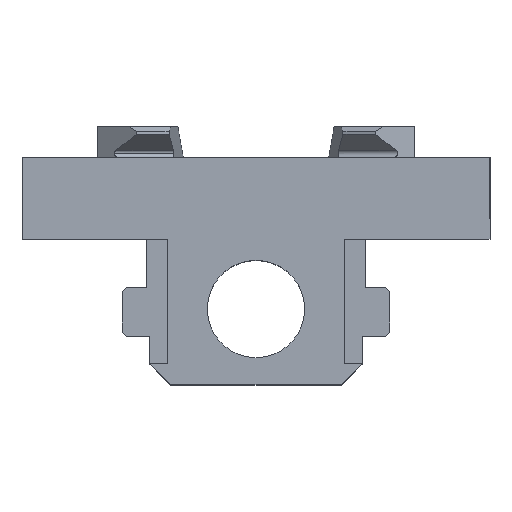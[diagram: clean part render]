
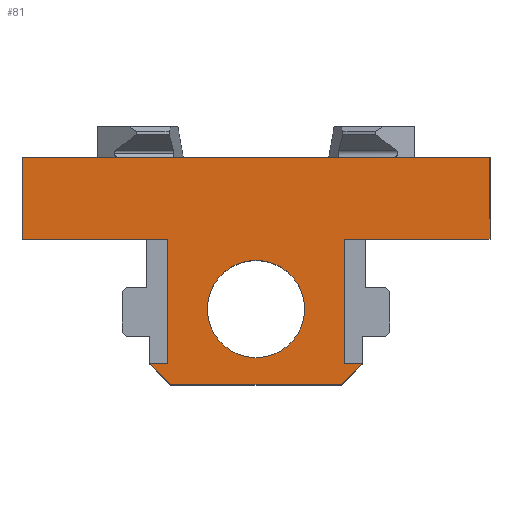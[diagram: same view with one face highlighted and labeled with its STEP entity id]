
A CAD part, top view. The second image highlights one B-rep face of the part: STEP entity #81.
In plain terms, the highlighted planar face has unit normal (0, 0, 1).
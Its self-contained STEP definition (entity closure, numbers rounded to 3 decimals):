
#21 = DIRECTION ( 'NONE',  ( 0.707, -0.707, 0. ) ) ;
#36 = VECTOR ( 'NONE', #11108, 1000. ) ;
#81 = ADVANCED_FACE ( 'NONE', ( #3374, #8034 ), #1115, .F. ) ;
#182 = ORIENTED_EDGE ( 'NONE', *, *, #5390, .F. ) ;
#227 = VECTOR ( 'NONE', #633, 1000. ) ;
#567 = VERTEX_POINT ( 'NONE', #6181 ) ;
#605 = LINE ( 'NONE', #5237, #2362 ) ;
#633 = DIRECTION ( 'NONE',  ( 1., 0., 0. ) ) ;
#773 = VECTOR ( 'NONE', #4546, 1000. ) ;
#853 = CARTESIAN_POINT ( 'NONE',  ( -14.5, 54.083, 9.5 ) ) ;
#892 = EDGE_CURVE ( 'NONE', #14352, #14885, #2034, .T. ) ;
#919 = VECTOR ( 'NONE', #21, 1000. ) ;
#949 = CARTESIAN_POINT ( 'NONE',  ( 0., 12.5, 9.5 ) ) ;
#1115 = PLANE ( 'NONE',  #6358 ) ;
#1139 = LINE ( 'NONE', #9286, #14780 ) ;
#1232 = AXIS2_PLACEMENT_3D ( 'NONE', #949, #14905, #14138 ) ;
#1271 = LINE ( 'NONE', #8110, #6254 ) ;
#1556 = EDGE_CURVE ( 'NONE', #8244, #9348, #8849, .T. ) ;
#2022 = DIRECTION ( 'NONE',  ( 1., 0., 0. ) ) ;
#2034 = LINE ( 'NONE', #7957, #9537 ) ;
#2116 = VECTOR ( 'NONE', #9227, 1000. ) ;
#2218 = LINE ( 'NONE', #14951, #2116 ) ;
#2223 = DIRECTION ( 'NONE',  ( 0., 1., 0. ) ) ;
#2281 = LINE ( 'NONE', #11414, #8042 ) ;
#2362 = VECTOR ( 'NONE', #2721, 1000. ) ;
#2721 = DIRECTION ( 'NONE',  ( 1., 0., 0. ) ) ;
#2745 = DIRECTION ( 'NONE',  ( 0., 0., 1. ) ) ;
#2773 = CARTESIAN_POINT ( 'NONE',  ( -38.5, 24., 9.5 ) ) ;
#3015 = CARTESIAN_POINT ( 'NONE',  ( 14.5, 24., 9.5 ) ) ;
#3047 = VERTEX_POINT ( 'NONE', #4840 ) ;
#3211 = DIRECTION ( 'NONE',  ( 1., 0., 0. ) ) ;
#3258 = EDGE_LOOP ( 'NONE', ( #5241, #10781, #11343, #5529, #5873, #12063, #5091, #7245, #12111, #182, #5279, #7904, #8491, #14403 ) ) ;
#3260 = LINE ( 'NONE', #7912, #773 ) ;
#3374 = FACE_OUTER_BOUND ( 'NONE', #3258, .T. ) ;
#3738 = CARTESIAN_POINT ( 'NONE',  ( 17.5, 3.5, 9.5 ) ) ;
#3789 = VERTEX_POINT ( 'NONE', #11794 ) ;
#3796 = EDGE_CURVE ( 'NONE', #3820, #12894, #5349, .T. ) ;
#3820 = VERTEX_POINT ( 'NONE', #10584 ) ;
#4325 = EDGE_CURVE ( 'NONE', #3789, #8244, #8111, .T. ) ;
#4341 = DIRECTION ( 'NONE',  ( 1., 0., 0. ) ) ;
#4526 = DIRECTION ( 'NONE',  ( 1., 0., 0. ) ) ;
#4546 = DIRECTION ( 'NONE',  ( 0., 1., 0. ) ) ;
#4645 = LINE ( 'NONE', #6589, #919 ) ;
#4647 = LINE ( 'NONE', #11780, #14057 ) ;
#4713 = EDGE_CURVE ( 'NONE', #8219, #14885, #1139, .T. ) ;
#4727 = DIRECTION ( 'NONE',  ( -1., 0., 0. ) ) ;
#4746 = DIRECTION ( 'NONE',  ( 1., 0., 0. ) ) ;
#4840 = CARTESIAN_POINT ( 'NONE',  ( 38.5, 37.5, 9.5 ) ) ;
#4914 = CARTESIAN_POINT ( 'NONE',  ( -14.5, 24., 9.5 ) ) ;
#4985 = CARTESIAN_POINT ( 'NONE',  ( 14., 0., 9.5 ) ) ;
#5011 = EDGE_CURVE ( 'NONE', #9542, #3047, #12182, .T. ) ;
#5091 = ORIENTED_EDGE ( 'NONE', *, *, #7016, .T. ) ;
#5237 = CARTESIAN_POINT ( 'NONE',  ( -38.501, 24., 9.5 ) ) ;
#5241 = ORIENTED_EDGE ( 'NONE', *, *, #13517, .T. ) ;
#5279 = ORIENTED_EDGE ( 'NONE', *, *, #12520, .T. ) ;
#5349 = CIRCLE ( 'NONE', #9019, 8. ) ;
#5359 = ORIENTED_EDGE ( 'NONE', *, *, #3796, .F. ) ;
#5390 = EDGE_CURVE ( 'NONE', #14578, #9542, #4647, .T. ) ;
#5529 = ORIENTED_EDGE ( 'NONE', *, *, #892, .F. ) ;
#5605 = VECTOR ( 'NONE', #4746, 1000. ) ;
#5753 = CARTESIAN_POINT ( 'NONE',  ( -38.501, 24., 9.5 ) ) ;
#5780 = VERTEX_POINT ( 'NONE', #3015 ) ;
#5873 = ORIENTED_EDGE ( 'NONE', *, *, #13624, .F. ) ;
#5967 = CARTESIAN_POINT ( 'NONE',  ( -38.5, 37.5, 9.5 ) ) ;
#6181 = CARTESIAN_POINT ( 'NONE',  ( -14., 0., 9.5 ) ) ;
#6254 = VECTOR ( 'NONE', #4526, 1000. ) ;
#6290 = EDGE_CURVE ( 'NONE', #12894, #3820, #10216, .T. ) ;
#6358 = AXIS2_PLACEMENT_3D ( 'NONE', #8173, #14089, #8103 ) ;
#6589 = CARTESIAN_POINT ( 'NONE',  ( -17.5, 3.5, 9.5 ) ) ;
#7016 = EDGE_CURVE ( 'NONE', #8434, #8555, #13565, .T. ) ;
#7113 = EDGE_LOOP ( 'NONE', ( #14560, #5359 ) ) ;
#7245 = ORIENTED_EDGE ( 'NONE', *, *, #12900, .T. ) ;
#7488 = EDGE_CURVE ( 'NONE', #12414, #9348, #14747, .T. ) ;
#7520 = CARTESIAN_POINT ( 'NONE',  ( 14.5, 3.5, 9.5 ) ) ;
#7904 = ORIENTED_EDGE ( 'NONE', *, *, #4325, .T. ) ;
#7912 = CARTESIAN_POINT ( 'NONE',  ( 38.5, 37.5, 9.5 ) ) ;
#7957 = CARTESIAN_POINT ( 'NONE',  ( -38.5, 3.5, 9.5 ) ) ;
#8034 = FACE_BOUND ( 'NONE', #7113, .T. ) ;
#8042 = VECTOR ( 'NONE', #4341, 1000. ) ;
#8103 = DIRECTION ( 'NONE',  ( -1., 0., 0. ) ) ;
#8110 = CARTESIAN_POINT ( 'NONE',  ( -38.5, 0., 9.5 ) ) ;
#8111 = LINE ( 'NONE', #5753, #5605 ) ;
#8173 = CARTESIAN_POINT ( 'NONE',  ( -38.5, 0., 9.5 ) ) ;
#8219 = VERTEX_POINT ( 'NONE', #4985 ) ;
#8244 = VERTEX_POINT ( 'NONE', #4914 ) ;
#8434 = VERTEX_POINT ( 'NONE', #9325 ) ;
#8491 = ORIENTED_EDGE ( 'NONE', *, *, #1556, .T. ) ;
#8555 = VERTEX_POINT ( 'NONE', #14227 ) ;
#8690 = CARTESIAN_POINT ( 'NONE',  ( -17.5, 3.5, 9.5 ) ) ;
#8849 = LINE ( 'NONE', #853, #36 ) ;
#9019 = AXIS2_PLACEMENT_3D ( 'NONE', #14296, #2745, #4727 ) ;
#9020 = EDGE_CURVE ( 'NONE', #5780, #8434, #605, .T. ) ;
#9114 = DIRECTION ( 'NONE',  ( 1., 0., 0. ) ) ;
#9227 = DIRECTION ( 'NONE',  ( 0., -1., 0. ) ) ;
#9233 = CARTESIAN_POINT ( 'NONE',  ( -38.5, 3.5, 9.5 ) ) ;
#9286 = CARTESIAN_POINT ( 'NONE',  ( 14., 0., 9.5 ) ) ;
#9325 = CARTESIAN_POINT ( 'NONE',  ( 18., 24., 9.5 ) ) ;
#9348 = VERTEX_POINT ( 'NONE', #9572 ) ;
#9537 = VECTOR ( 'NONE', #9114, 1000. ) ;
#9542 = VERTEX_POINT ( 'NONE', #5967 ) ;
#9572 = CARTESIAN_POINT ( 'NONE',  ( -14.5, 3.5, 9.5 ) ) ;
#10216 = CIRCLE ( 'NONE', #1232, 8. ) ;
#10230 = VECTOR ( 'NONE', #2022, 1000. ) ;
#10584 = CARTESIAN_POINT ( 'NONE',  ( -8., 12.5, 9.5 ) ) ;
#10781 = ORIENTED_EDGE ( 'NONE', *, *, #13432, .T. ) ;
#11049 = CARTESIAN_POINT ( 'NONE',  ( -38.501, 37.5, 9.5 ) ) ;
#11108 = DIRECTION ( 'NONE',  ( 0., -1., 0. ) ) ;
#11343 = ORIENTED_EDGE ( 'NONE', *, *, #4713, .T. ) ;
#11414 = CARTESIAN_POINT ( 'NONE',  ( -38.501, 24., 9.5 ) ) ;
#11692 = DIRECTION ( 'NONE',  ( 0.707, 0.707, 0. ) ) ;
#11780 = CARTESIAN_POINT ( 'NONE',  ( -38.5, 37.5, 9.5 ) ) ;
#11794 = CARTESIAN_POINT ( 'NONE',  ( -18., 24., 9.5 ) ) ;
#12063 = ORIENTED_EDGE ( 'NONE', *, *, #9020, .T. ) ;
#12111 = ORIENTED_EDGE ( 'NONE', *, *, #5011, .F. ) ;
#12182 = LINE ( 'NONE', #11049, #227 ) ;
#12414 = VERTEX_POINT ( 'NONE', #8690 ) ;
#12427 = CARTESIAN_POINT ( 'NONE',  ( -38.501, 24., 9.5 ) ) ;
#12520 = EDGE_CURVE ( 'NONE', #14578, #3789, #2281, .T. ) ;
#12643 = VECTOR ( 'NONE', #3211, 1000. ) ;
#12894 = VERTEX_POINT ( 'NONE', #13670 ) ;
#12900 = EDGE_CURVE ( 'NONE', #8555, #3047, #3260, .T. ) ;
#13432 = EDGE_CURVE ( 'NONE', #567, #8219, #1271, .T. ) ;
#13517 = EDGE_CURVE ( 'NONE', #12414, #567, #4645, .T. ) ;
#13565 = LINE ( 'NONE', #12427, #10230 ) ;
#13624 = EDGE_CURVE ( 'NONE', #5780, #14352, #2218, .T. ) ;
#13670 = CARTESIAN_POINT ( 'NONE',  ( 8., 12.5, 9.5 ) ) ;
#14057 = VECTOR ( 'NONE', #2223, 1000. ) ;
#14089 = DIRECTION ( 'NONE',  ( 0., 0., -1. ) ) ;
#14138 = DIRECTION ( 'NONE',  ( -1., 0., 0. ) ) ;
#14227 = CARTESIAN_POINT ( 'NONE',  ( 38.5, 24., 9.5 ) ) ;
#14296 = CARTESIAN_POINT ( 'NONE',  ( 0., 12.5, 9.5 ) ) ;
#14352 = VERTEX_POINT ( 'NONE', #7520 ) ;
#14403 = ORIENTED_EDGE ( 'NONE', *, *, #7488, .F. ) ;
#14560 = ORIENTED_EDGE ( 'NONE', *, *, #6290, .F. ) ;
#14578 = VERTEX_POINT ( 'NONE', #2773 ) ;
#14747 = LINE ( 'NONE', #9233, #12643 ) ;
#14780 = VECTOR ( 'NONE', #11692, 1000. ) ;
#14885 = VERTEX_POINT ( 'NONE', #3738 ) ;
#14905 = DIRECTION ( 'NONE',  ( 0., 0., 1. ) ) ;
#14951 = CARTESIAN_POINT ( 'NONE',  ( 14.5, 54.083, 9.5 ) ) ;
